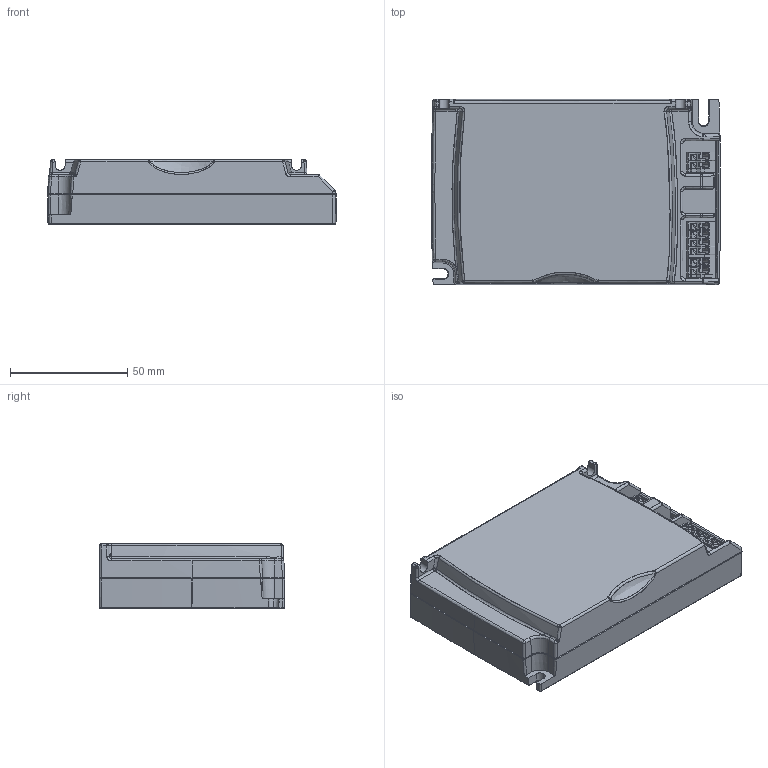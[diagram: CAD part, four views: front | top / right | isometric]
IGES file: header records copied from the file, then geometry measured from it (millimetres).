
Start section: SolidWorks IGES file using analytic representation for surfaces
Global section: file name: C:\Users\vuorinen_kari\Desktop\prj\LC1x50-E-CC-700-1050\LC1x50-E-CC-700-1050.IGS; native system: SolidWorks 2014; preprocessor: SolidWorks 2014; author: vuorinen_kari; date: 160108.114735; units: millimetre
Bounding box: 123 x 79 x 27.5 mm (x, y, z)
Surface area: 84181.2 mm2 (no closed solid volume)
Topology: 0 solids, 0 shells, 1237 faces, 9303 edges, 9253 vertices
Faces by surface type: bspline 733, revolution 504
